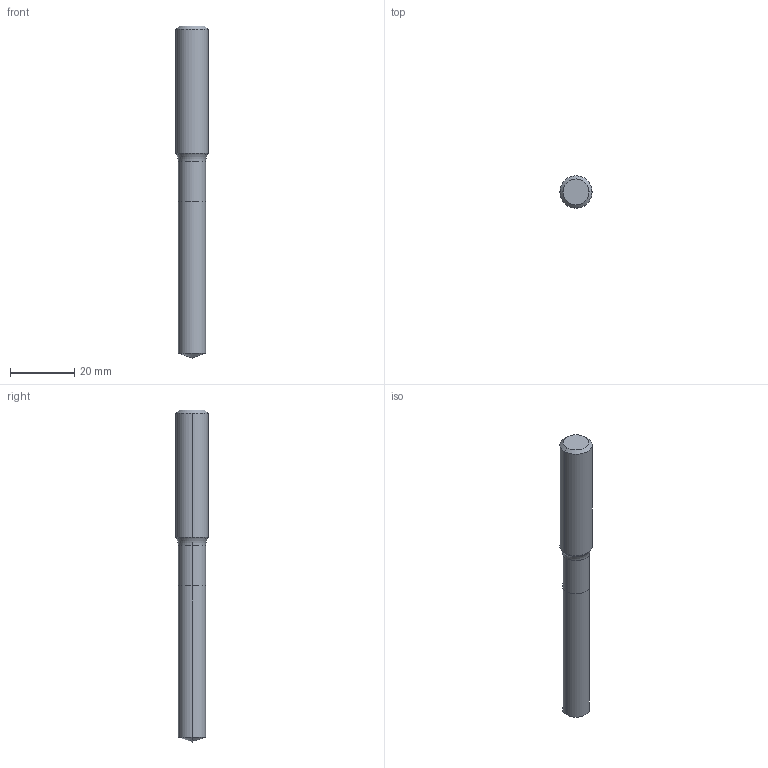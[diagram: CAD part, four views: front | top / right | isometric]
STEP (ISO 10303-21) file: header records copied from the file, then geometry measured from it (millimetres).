
FILE_DESCRIPTION (( 'STEP AP214' ), '1' );
FILE_NAME ('905.084.00_3D-model.step', '2022-02-24T17:49:24', ( '' ), ( '' ), 'SwSTEP 2.0', 'SolidWorks 2020', '' );
FILE_SCHEMA (( 'AUTOMOTIVE_DESIGN' ));
Length unit declared in the file: millimetre
Products named in the file (3): CUT-3D^Baugr70; 905.084.00_3D-model; NOCUT-3D^Baugr70
Assembly tree (2 placements, depth 2):
  905.084.00_3D-model
    CUT-3D^Baugr70
    NOCUT-3D^Baugr70
Bounding box: 10 x 10 x 103 mm (x, y, z)
Volume: 6569.4 mm3; surface area: 3114.1 mm2
Topology: 2 solids, 2 shells, 17 faces, 32 edges, 17 vertices
Faces by surface type: cone 6, cylinder 6, plane 3, torus 2
Entity records: 532 total; most frequent: DIRECTION 98, CARTESIAN_POINT 72, ORIENTED_EDGE 60, AXIS2_PLACEMENT_3D 43, EDGE_CURVE 30, CIRCLE 18, FACE_OUTER_BOUND 17, VERTEX_POINT 17
